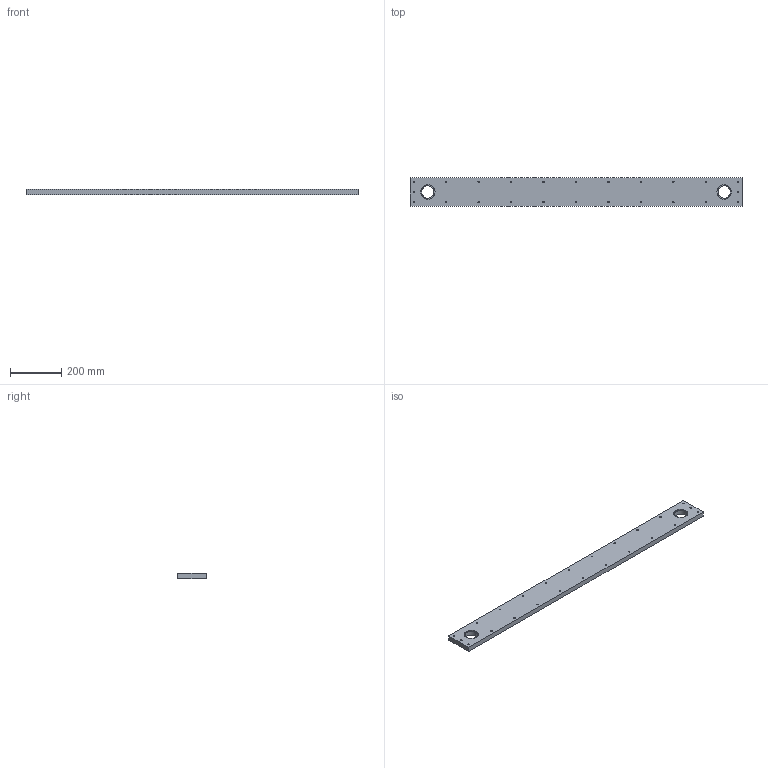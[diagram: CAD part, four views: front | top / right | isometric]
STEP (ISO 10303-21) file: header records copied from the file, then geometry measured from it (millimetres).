
FILE_DESCRIPTION (( 'STEP AP214' ), '1' );
FILE_NAME ('horni deska.STEP', '2019-08-01T09:23:22', ( '' ), ( '' ), 'SwSTEP 2.0', 'SolidWorks 2016', '' );
FILE_SCHEMA (( 'AUTOMOTIVE_DESIGN' ));
Length unit declared in the file: millimetre
Products named in the file (1): horni deska
Bounding box: 1300 x 110 x 20 mm (x, y, z)
Volume: 2772804.7 mm3; surface area: 348536.7 mm2
Topology: 1 solids, 1 shells, 64 faces, 180 edges, 120 vertices
Faces by surface type: cylinder 56, plane 8
Entity records: 2274 total; most frequent: DIRECTION 422, CARTESIAN_POINT 365, ORIENTED_EDGE 360, EDGE_CURVE 180, AXIS2_PLACEMENT_3D 177, VERTEX_POINT 120, EDGE_LOOP 118, CIRCLE 112
